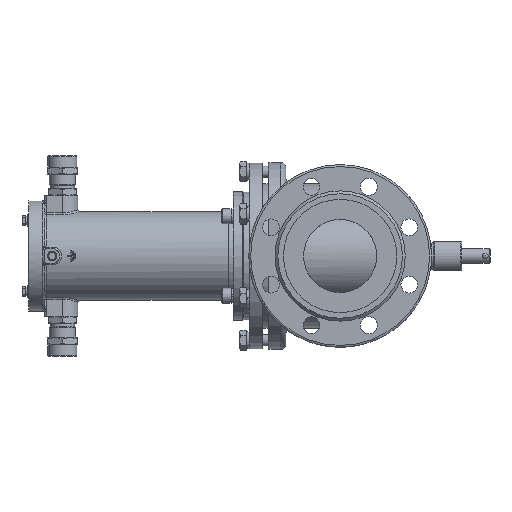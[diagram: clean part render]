
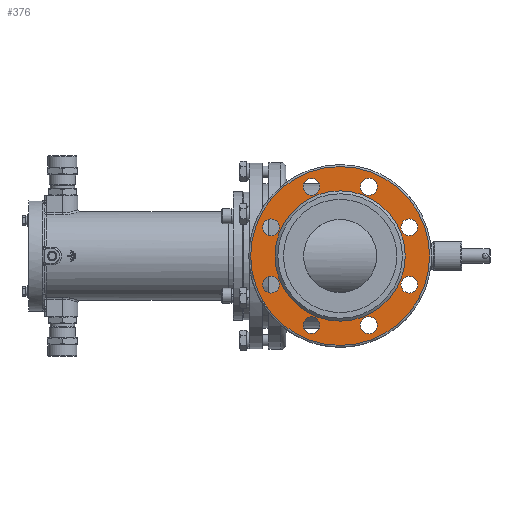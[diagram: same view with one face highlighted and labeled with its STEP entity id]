
A CAD part, left-side view. The second image highlights one B-rep face of the part: STEP entity #376.
In plain terms, the highlighted planar face has unit normal (-1, 0, 0).
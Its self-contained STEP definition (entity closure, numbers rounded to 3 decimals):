
#376=ADVANCED_FACE('',(#8174,#8176,#8178,#8180,#8182,#8184,#8186,#8188,#8190,#8192),
#8194,.T.);
#8174=FACE_BOUND('',#8175,.T.);
#8175=EDGE_LOOP('',(#24794));
#8176=FACE_BOUND('',#8177,.T.);
#8177=EDGE_LOOP('',(#24795));
#8178=FACE_BOUND('',#8179,.T.);
#8179=EDGE_LOOP('',(#24796));
#8180=FACE_BOUND('',#8181,.T.);
#8181=EDGE_LOOP('',(#24797));
#8182=FACE_BOUND('',#8183,.T.);
#8183=EDGE_LOOP('',(#24798));
#8184=FACE_BOUND('',#8185,.T.);
#8185=EDGE_LOOP('',(#24799));
#8186=FACE_BOUND('',#8187,.T.);
#8187=EDGE_LOOP('',(#24800));
#8188=FACE_BOUND('',#8189,.T.);
#8189=EDGE_LOOP('',(#24801));
#8190=FACE_BOUND('',#8191,.T.);
#8191=EDGE_LOOP('',(#24802));
#8192=FACE_OUTER_BOUND('',#8193,.T.);
#8193=EDGE_LOOP('',(#24803));
#8194=PLANE('',#8195);
#8195=AXIS2_PLACEMENT_3D('',#8196,#8197,#8198);
#8196=CARTESIAN_POINT('',(-151.,0.,0.));
#8197=DIRECTION('',(-1.,0.,0.));
#8198=DIRECTION('',(0.,1.,0.));
#24794=ORIENTED_EDGE('',*,*,#37133,.T.);
#24795=ORIENTED_EDGE('',*,*,#37131,.T.);
#24796=ORIENTED_EDGE('',*,*,#37129,.T.);
#24797=ORIENTED_EDGE('',*,*,#37127,.T.);
#24798=ORIENTED_EDGE('',*,*,#37125,.T.);
#24799=ORIENTED_EDGE('',*,*,#37123,.T.);
#24800=ORIENTED_EDGE('',*,*,#37121,.T.);
#24801=ORIENTED_EDGE('',*,*,#37119,.T.);
#24802=ORIENTED_EDGE('',*,*,#37176,.F.);
#24803=ORIENTED_EDGE('',*,*,#37177,.T.);
#37119=EDGE_CURVE('',#42770,#42770,#42772,.T.);
#37121=EDGE_CURVE('',#42773,#42773,#42775,.T.);
#37123=EDGE_CURVE('',#42776,#42776,#42778,.T.);
#37125=EDGE_CURVE('',#42779,#42779,#42781,.T.);
#37127=EDGE_CURVE('',#42782,#42782,#42784,.T.);
#37129=EDGE_CURVE('',#42785,#42785,#42787,.T.);
#37131=EDGE_CURVE('',#42788,#42788,#42790,.T.);
#37133=EDGE_CURVE('',#42791,#42791,#42793,.T.);
#37176=EDGE_CURVE('',#42868,#42868,#42869,.T.);
#37177=EDGE_CURVE('',#42870,#42870,#42871,.T.);
#42770=VERTEX_POINT('',#56988);
#42772=CIRCLE('',#56992,9.);
#42773=VERTEX_POINT('',#56996);
#42775=CIRCLE('',#57000,9.);
#42776=VERTEX_POINT('',#57004);
#42778=CIRCLE('',#57008,9.);
#42779=VERTEX_POINT('',#57012);
#42781=CIRCLE('',#57016,9.);
#42782=VERTEX_POINT('',#57020);
#42784=CIRCLE('',#57024,9.);
#42785=VERTEX_POINT('',#57028);
#42787=CIRCLE('',#57032,9.);
#42788=VERTEX_POINT('',#57036);
#42790=CIRCLE('',#57040,9.);
#42791=VERTEX_POINT('',#57044);
#42793=CIRCLE('',#57048,9.);
#42868=VERTEX_POINT('',#57435);
#42869=CIRCLE('',#57436,69.5);
#42870=VERTEX_POINT('',#57440);
#42871=CIRCLE('',#57441,95.5);
#56988=CARTESIAN_POINT('',(-151.,30.615,64.91));
#56992=AXIS2_PLACEMENT_3D('',#56993,#56994,#56995);
#56993=CARTESIAN_POINT('',(-151.,30.615,73.91));
#56994=DIRECTION('',(1.,0.,0.));
#56995=DIRECTION('',(0.,-1.,0.));
#56996=CARTESIAN_POINT('',(-151.,30.615,-82.91));
#57000=AXIS2_PLACEMENT_3D('',#57001,#57002,#57003);
#57001=CARTESIAN_POINT('',(-151.,30.615,-73.91));
#57002=DIRECTION('',(1.,0.,0.));
#57003=DIRECTION('',(0.,-1.,0.));
#57004=CARTESIAN_POINT('',(-151.,73.91,21.615));
#57008=AXIS2_PLACEMENT_3D('',#57009,#57010,#57011);
#57009=CARTESIAN_POINT('',(-151.,73.91,30.615));
#57010=DIRECTION('',(1.,0.,0.));
#57011=DIRECTION('',(0.,-1.,0.));
#57012=CARTESIAN_POINT('',(-151.,-30.615,-82.91));
#57016=AXIS2_PLACEMENT_3D('',#57017,#57018,#57019);
#57017=CARTESIAN_POINT('',(-151.,-30.615,-73.91));
#57018=DIRECTION('',(1.,0.,0.));
#57019=DIRECTION('',(0.,-1.,0.));
#57020=CARTESIAN_POINT('',(-151.,-73.91,21.615));
#57024=AXIS2_PLACEMENT_3D('',#57025,#57026,#57027);
#57025=CARTESIAN_POINT('',(-151.,-73.91,30.615));
#57026=DIRECTION('',(1.,0.,0.));
#57027=DIRECTION('',(0.,-1.,0.));
#57028=CARTESIAN_POINT('',(-151.,-30.615,64.91));
#57032=AXIS2_PLACEMENT_3D('',#57033,#57034,#57035);
#57033=CARTESIAN_POINT('',(-151.,-30.615,73.91));
#57034=DIRECTION('',(1.,0.,0.));
#57035=DIRECTION('',(0.,-1.,0.));
#57036=CARTESIAN_POINT('',(-151.,73.91,-39.615));
#57040=AXIS2_PLACEMENT_3D('',#57041,#57042,#57043);
#57041=CARTESIAN_POINT('',(-151.,73.91,-30.615));
#57042=DIRECTION('',(1.,0.,0.));
#57043=DIRECTION('',(0.,-1.,0.));
#57044=CARTESIAN_POINT('',(-151.,-73.91,-39.615));
#57048=AXIS2_PLACEMENT_3D('',#57049,#57050,#57051);
#57049=CARTESIAN_POINT('',(-151.,-73.91,-30.615));
#57050=DIRECTION('',(1.,0.,0.));
#57051=DIRECTION('',(0.,-1.,0.));
#57435=CARTESIAN_POINT('',(-151.,-69.5,0.));
#57436=AXIS2_PLACEMENT_3D('',#57437,#57438,#57439);
#57437=CARTESIAN_POINT('',(-151.,0.,0.));
#57438=DIRECTION('',(-1.,0.,0.));
#57439=DIRECTION('',(0.,1.,0.));
#57440=CARTESIAN_POINT('',(-151.,-95.5,0.));
#57441=AXIS2_PLACEMENT_3D('',#57442,#57443,#57444);
#57442=CARTESIAN_POINT('',(-151.,0.,0.));
#57443=DIRECTION('',(-1.,0.,0.));
#57444=DIRECTION('',(0.,1.,0.));
